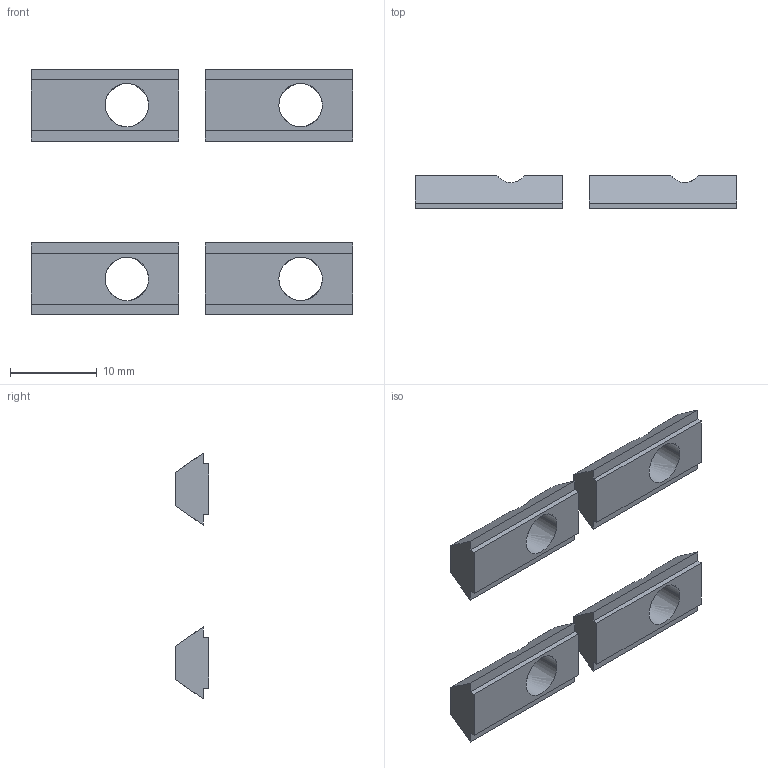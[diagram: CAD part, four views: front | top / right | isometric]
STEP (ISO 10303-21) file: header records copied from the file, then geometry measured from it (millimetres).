
FILE_DESCRIPTION(/* description */ (''),/* implementation_level */ '2;1');
FILE_NAME(/* name */ '6.y-drive#6.1#HNTPZ5-5',/* time_stamp */ '2014-12-01T20:13:49+01:00',/* author */ (''),/* organization */ (''),/* preprocessor_version */ 'ST-DEVELOPER v14',/* originating_system */ '',/* authorisation */ '');
FILE_SCHEMA (('AUTOMOTIVE_DESIGN'));
Length unit declared in the file: millimetre
Products named in the file (2): Document; nut tslot, post, M5
Assembly tree (4 placements, depth 2):
  Document
    nut tslot, post, M5  x4
Bounding box: 37 x 3.8 x 28.3 mm (x, y, z)
Volume: 1260 mm3; surface area: 1678 mm2
Topology: 4 solids, 4 shells, 52 faces, 144 edges, 96 vertices
Faces by surface type: plane 44, bspline 8
Entity records: 1025 total; most frequent: CARTESIAN_POINT 463, B_SPLINE_CURVE_WITH_KNOTS 100, ORIENTED_EDGE 72, PCURVE 72, DEFINITIONAL_REPRESENTATION 72, SURFACE_CURVE 36, EDGE_CURVE 36, VERTEX_POINT 24
